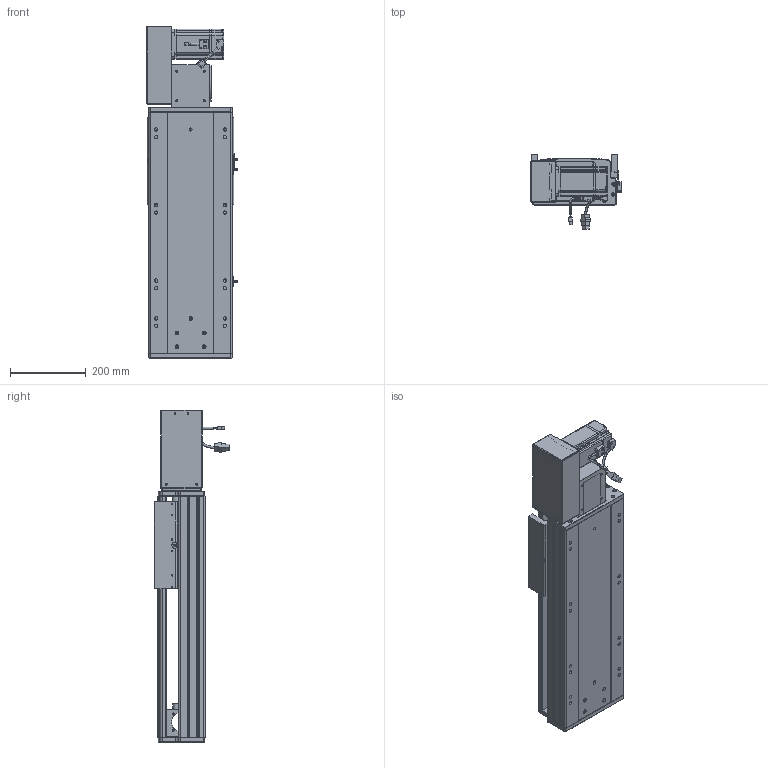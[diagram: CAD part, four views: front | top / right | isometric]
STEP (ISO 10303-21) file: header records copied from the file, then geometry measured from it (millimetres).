
FILE_DESCRIPTION (( 'STEP AP203' ), '1' );
FILE_NAME ('RY220-T-300-LK.SLDASM_默认.step', '2022-07-25T08:12:40', ( '' ), ( '' ), 'SwSTEP 2.0', 'SolidWorks 2016', '' );
FILE_SCHEMA (( 'CONFIG_CONTROL_DESIGN' ));
Length unit declared in the file: millimetre
Products named in the file (14): RY220-T-300-奻裔啣; 滅袉蝶18-15; RY220-T-蛌殏萇儂假蚾啣(750W); RY220-俋离672覜茼んえ; RY220翋肮祭謫釱; RY220-同步轮副支撑座6304×2; RY220-T菁釱-300; RY220翋肮祭謫裔啣; RY220-T-300-LK.SLDASM_默认; 110A-T-肮祭謫釱傷裔; 怢湛750W_ECMA-CX0807ES; RY220-T-湍謫欶(鍼踢); RY220圉猾敕々湍臏賑輸; 覜茼ん672
Assembly tree (18 placements, depth 2):
  RY220-T-300-LK.SLDASM_默认
    RY220-T菁釱-300
    RY220翋肮祭謫釱
    覜茼ん672  x3
    RY220圉猾敕々湍臏賑輸
    RY220-T-300-奻裔啣
    RY220-俋离672覜茼んえ
    滅袉蝶18-15  x3
    RY220翋肮祭謫裔啣  x2
    110A-T-肮祭謫釱傷裔
    怢湛750W_ECMA-CX0807ES
    RY220-T-湍謫欶(鍼踢)
    RY220-T-蛌殏萇儂假蚾啣(750W)
    RY220-同步轮副支撑座6304×2
Bounding box: 239.7 x 198.77 x 879 mm (x, y, z)
Volume: 7728714 mm3; surface area: 2103981.8 mm2
Topology: 19 solids, 19 shells, 2486 faces, 6851 edges, 4374 vertices
Faces by surface type: cylinder 1134, plane 1069, cone 201, bspline 56, sphere 16, torus 10
Entity records: 82627 total; most frequent: CARTESIAN_POINT 23707, ORIENTED_EDGE 12282, DIRECTION 11480, EDGE_CURVE 6141, AXIS2_PLACEMENT_3D 4016, VERTEX_POINT 3998, VECTOR 3448, LINE 3448
